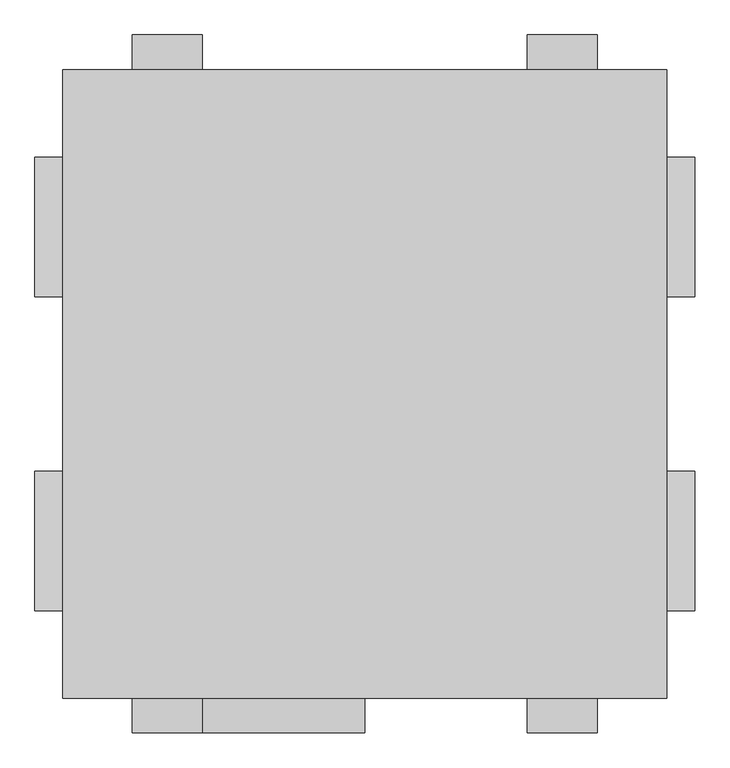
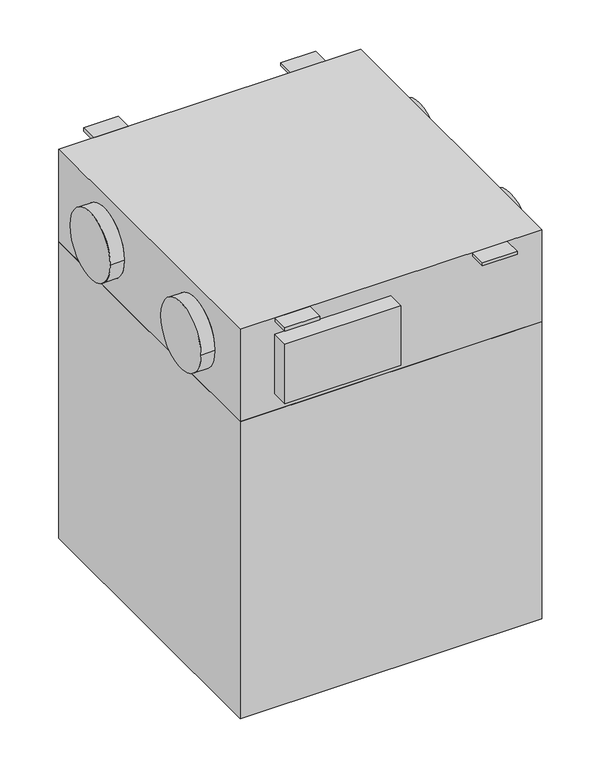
"""IFC4 building model written with IfcOpenShell, lengths in millimetres: proxy geometry, ADSK_КПВУ RONA SRME_круглая : Rona SRME 690 H1."""

from ifc_helpers import new_model, si_unit, frame, origin, place, context, project, spatial, polyline, circle_curve, outline, extrude, source, transform, mapped, element, save
from ifc_brep_helpers import plane_surface, cylinder_surface, advanced_brep


def mechanical_equipment_f87f4e95(model_context):
    return source(origin(), model_context, "Body", "SolidModel", [
        extrude(outline(polyline([(699.5, 451.0), (699.5, -451.0), (-167.5, -451.0), (-167.5, 451.0), (699.5, 451.0)])), frame((0.0, 0.0, -1032.0), z_axis=(0.0, 0.0, 1.0), x_axis=(1.0, 0.0, 0.0)), (0.0, 0.0, 1.0), 902.0),
        advanced_brep(
        [(699.5, -451.0, 150.0), (699.5, -451.0, -130.0), (699.5, 451.0, -130.0), (699.5, 451.0, 150.0), (699.5, -125.5, 10.0), (699.5, -325.5, 10.0), (699.5, 325.5, 10.0), (699.5, 125.5, 10.0), (-167.5, -451.0, 150.0), (-167.5, 451.0, 150.0), (-167.5, 451.0, -130.0), (-167.5, -451.0, -130.0), (-167.5, -125.5, 10.0), (-167.5, -325.5, 10.0), (-167.5, 125.5, 10.0), (-167.5, 325.5, 10.0), (-207.5, -325.5, 10.0), (-207.5, -125.5, 10.0), (-207.5, 125.5, 10.0), (-207.5, 325.5, 10.0), (-67.5, -451.0, 100.0), (266.0, -451.0, 100.0), (266.0, -451.0, -80.0), (-67.5, -451.0, -80.0), (739.5, -325.5, 10.0), (739.5, -125.5, 10.0), (739.5, 125.5, 10.0), (739.5, 325.5, 10.0), (-67.5, -501.0, 100.0), (266.0, -501.0, 100.0), (266.0, -501.0, -80.0), (-67.5, -501.0, -80.0)],
        [
            (0, 1),
            (1, 2),
            (2, 3),
            (3, 0),
            (4, 5, circle_curve(frame((699.5, -225.5, 10.0), z_axis=(-1.0, 0.0, 0.0), x_axis=(0.0, 1.0, 0.0)), 100.0)),
            (5, 4, circle_curve(frame((699.5, -225.5, 10.0), z_axis=(-1.0, 0.0, 0.0), x_axis=(0.0, 1.0, 0.0)), 100.0)),
            (6, 7, circle_curve(frame((699.5, 225.5, 10.0), z_axis=(-1.0, 0.0, 0.0), x_axis=(0.0, 1.0, 0.0)), 100.0)),
            (7, 6, circle_curve(frame((699.5, 225.5, 10.0), z_axis=(-1.0, 0.0, 0.0), x_axis=(0.0, 1.0, 0.0)), 100.0)),
            (8, 9),
            (9, 10),
            (10, 11),
            (11, 8),
            (12, 13, circle_curve(frame((-167.5, -225.5, 10.0), z_axis=(1.0, 0.0, 0.0), x_axis=(0.0, 1.0, 0.0)), 100.0)),
            (13, 12, circle_curve(frame((-167.5, -225.5, 10.0), z_axis=(1.0, 0.0, 0.0), x_axis=(0.0, 1.0, 0.0)), 100.0)),
            (14, 15, circle_curve(frame((-167.5, 225.5, 10.0), z_axis=(1.0, 0.0, 0.0), x_axis=(0.0, 1.0, 0.0)), 100.0)),
            (15, 14, circle_curve(frame((-167.5, 225.5, 10.0), z_axis=(1.0, 0.0, 0.0), x_axis=(0.0, 1.0, 0.0)), 100.0)),
            (16, 17, circle_curve(frame((-207.5, -225.5, 10.0), z_axis=(-1.0, 0.0, 0.0), x_axis=(0.0, 1.0, 0.0)), 100.0)),
            (17, 16, circle_curve(frame((-207.5, -225.5, 10.0), z_axis=(-1.0, 0.0, 0.0), x_axis=(0.0, 1.0, 0.0)), 100.0)),
            (18, 19, circle_curve(frame((-207.5, 225.5, 10.0), z_axis=(-1.0, 0.0, 0.0), x_axis=(0.0, 1.0, 0.0)), 100.0)),
            (19, 18, circle_curve(frame((-207.5, 225.5, 10.0), z_axis=(-1.0, 0.0, 0.0), x_axis=(0.0, 1.0, 0.0)), 100.0)),
            (0, 8),
            (11, 1),
            (20, 21),
            (21, 22),
            (22, 23),
            (23, 20),
            (10, 2),
            (9, 3),
            (16, 13),
            (12, 17),
            (24, 25, circle_curve(frame((739.5, -225.5, 10.0), z_axis=(1.0, 0.0, 0.0), x_axis=(0.0, 1.0, 0.0)), 100.0)),
            (25, 24, circle_curve(frame((739.5, -225.5, 10.0), z_axis=(1.0, 0.0, 0.0), x_axis=(0.0, 1.0, 0.0)), 100.0)),
            (26, 27, circle_curve(frame((739.5, 225.5, 10.0), z_axis=(1.0, 0.0, 0.0), x_axis=(0.0, 1.0, 0.0)), 100.0)),
            (27, 26, circle_curve(frame((739.5, 225.5, 10.0), z_axis=(1.0, 0.0, 0.0), x_axis=(0.0, 1.0, 0.0)), 100.0)),
            (24, 5),
            (4, 25),
            (19, 15),
            (14, 18),
            (26, 7),
            (6, 27),
            (20, 28),
            (28, 29),
            (29, 21),
            (22, 30),
            (30, 31),
            (31, 23),
            (31, 28),
            (30, 29),
        ],
        [
            plane_surface(frame((699.5, -451.0, 150.0), z_axis=(1.0, 0.0, 0.0), x_axis=(0.0, 0.0, -1.0))),
            plane_surface(frame((-167.5, -451.0, 150.0), z_axis=(-1.0, 0.0, 0.0), x_axis=(0.0, 0.0, 1.0))),
            plane_surface(frame((-207.5, -125.5, 10.0), z_axis=(-1.0, 0.0, 0.0), x_axis=(0.0, 0.0, -1.0))),
            plane_surface(frame((699.5, -451.0, 150.0), z_axis=(0.0, -1.0, 0.0), x_axis=(-1.0, 0.0, 0.0))),
            plane_surface(frame((699.5, -451.0, -130.0), z_axis=(0.0, 0.0, -1.0), x_axis=(-1.0, 0.0, 0.0))),
            plane_surface(frame((699.5, 451.0, -130.0), z_axis=(0.0, 1.0, 0.0), x_axis=(-1.0, 0.0, 0.0))),
            plane_surface(frame((699.5, 451.0, 150.0), z_axis=(0.0, 0.0, 1.0), x_axis=(-1.0, 0.0, 0.0))),
            cylinder_surface(frame((-207.5, -225.5, 10.0), z_axis=(1.0, 0.0, 0.0), x_axis=(0.0, 1.0, 0.0)), 100.0),
            plane_surface(frame((739.5, -125.5, 10.0), z_axis=(1.0, 0.0, 0.0), x_axis=(0.0, 0.0, 1.0))),
            cylinder_surface(frame((699.5, -225.5, 10.0), z_axis=(1.0, 0.0, 0.0), x_axis=(0.0, 1.0, 0.0)), 100.0),
            cylinder_surface(frame((-207.5, 225.5, 10.0), z_axis=(1.0, 0.0, 0.0), x_axis=(0.0, 1.0, 0.0)), 100.0),
            cylinder_surface(frame((699.5, 225.5, 10.0), z_axis=(1.0, 0.0, 0.0), x_axis=(0.0, 1.0, 0.0)), 100.0),
            plane_surface(frame((-67.5, -451.0, 100.0), z_axis=(0.0, 0.0, 1.0), x_axis=(-1.0, 0.0, 0.0))),
            plane_surface(frame((-67.5, -451.0, -80.0), z_axis=(0.0, 0.0, -1.0), x_axis=(1.0, 0.0, 0.0))),
            plane_surface(frame((-67.5, -451.0, 100.0), z_axis=(-1.0, 0.0, 0.0), x_axis=(0.0, 0.0, -1.0))),
            plane_surface(frame((-67.5, -501.0, 100.0), z_axis=(0.0, -1.0, 0.0), x_axis=(0.0, 0.0, -1.0))),
            plane_surface(frame((266.0, -501.0, 100.0), z_axis=(1.0, 0.0, 0.0), x_axis=(0.0, 0.0, -1.0))),
        ],
        [
            (0, [[1, 2, 3, 4], [5, 6], [7, 8]]),
            (1, [[9, 10, 11, 12], [13, 14], [15, 16]]),
            (2, [[17, 18]]),
            (2, [[19, 20]]),
            (3, [[-1, 21, -12, 22], [23, 24, 25, 26]]),
            (4, [[-2, -22, -11, 27]]),
            (5, [[-3, -27, -10, 28]]),
            (6, [[-4, -28, -9, -21]]),
            (7, [[-17, 29, -13, 30]]),
            (7, [[-18, -30, -14, -29]]),
            (8, [[31, 32]]),
            (8, [[33, 34]]),
            (9, [[-31, 35, -5, 36]]),
            (9, [[-32, -36, -6, -35]]),
            (10, [[-20, 37, -15, 38]]),
            (10, [[-19, -38, -16, -37]]),
            (11, [[-33, 39, -7, 40]]),
            (11, [[-34, -40, -8, -39]]),
            (12, [[41, 42, 43, -23]]),
            (13, [[44, 45, 46, -25]]),
            (14, [[-41, -26, -46, 47]]),
            (15, [[-42, -47, -45, 48]]),
            (16, [[-43, -48, -44, -24]]),
        ],
    ),
        extrude(outline(polyline([(32.5, 501.0), (32.5, 451.0), (-67.5, 451.0), (-67.5, 501.0), (32.5, 501.0)])), frame((0.0, 0.0, 140.0), z_axis=(0.0, 0.0, 1.0), x_axis=(1.0, 0.0, 0.0)), (0.0, 0.0, 1.0), 10.0),
        extrude(outline(polyline([(499.5, 501.0), (599.5, 501.0), (599.5, 451.0), (499.5, 451.0), (499.5, 501.0)])), frame((0.0, 0.0, 140.0), z_axis=(0.0, 0.0, 1.0), x_axis=(1.0, 0.0, 0.0)), (0.0, 0.0, 1.0), 10.0),
        extrude(outline(polyline([(32.5, -501.0), (-67.5, -501.0), (-67.5, -451.0), (32.5, -451.0), (32.5, -501.0)])), frame((0.0, 0.0, 140.0), z_axis=(0.0, 0.0, 1.0), x_axis=(1.0, 0.0, 0.0)), (0.0, 0.0, 1.0), 10.0),
        extrude(outline(polyline([(499.5, -501.0), (499.5, -451.0), (599.5, -451.0), (599.5, -501.0), (499.5, -501.0)])), frame((0.0, 0.0, 140.0), z_axis=(0.0, 0.0, 1.0), x_axis=(1.0, 0.0, 0.0)), (0.0, 0.0, 1.0), 10.0),
    ])


if __name__ == "__main__":
    model = new_model("IFC4")
    model_context = context("Model", 3, world=origin())
    ifc_project = project(units=[si_unit("LENGTHUNIT", "METRE", prefix="MILLI")], contexts=[model_context])
    site = spatial("IfcSite", under=ifc_project)
    building = spatial("IfcBuilding", under=site)
    placement = place(None, origin())
    mechanical_equipment_shape = mechanical_equipment_f87f4e95(model_context)
    element("IfcBuildingElementProxy", 1, Name="ADSK_КПВУ RONA SRME_круглая : Rona SRME 690 H1", ObjectType="ADSK_КПВУ RONA SRME_круглая : Rona SRME 690 H1", at=placement, inside=building, context=model_context, shape_type="MappedRepresentation", body=[
        mapped(mechanical_equipment_shape, transform((0.0, 0.0, 0.0), x_axis=(1.0, 0.0, 0.0), y_axis=(0.0, 1.0, 0.0), z_axis=(0.0, 0.0, 1.0))),
    ])
    save(model, "model.ifc")
